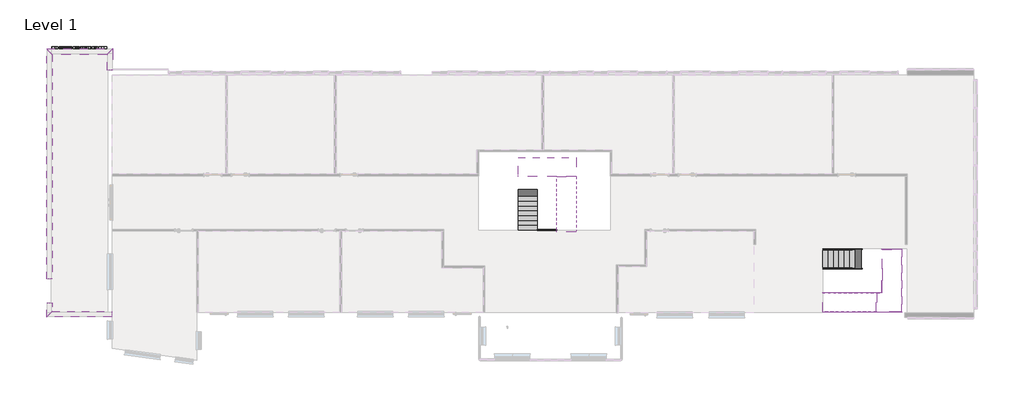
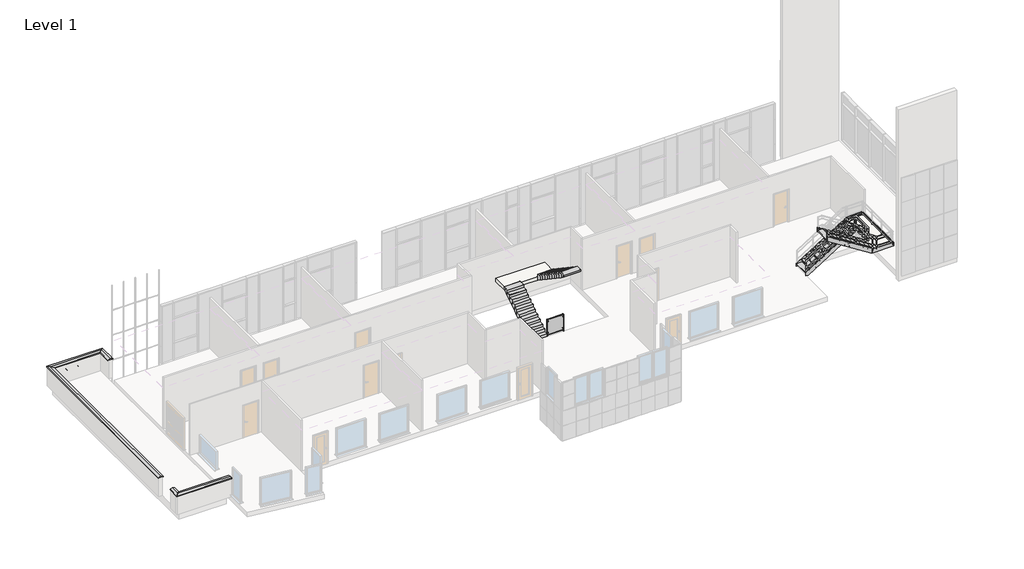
# One storey, part 10 of 10: 9 members, 6 proxies, 4 stair flights, 2 slabs, 1 railing.
"""IFC4 building model written with IfcOpenShell, lengths in millimetres."""

from ifc_helpers import new_model, si_unit, point, frame, origin, place, context, project, spatial, polyline, ellipse_curve, trimmed, outline, extrude, faceted_brep, transform, mapped, element, save
from ifc_brep_helpers import plane_surface, extruded_surface, advanced_brep
from components import non_monolithic_landing_89975e38, concrete_steps_w_40mm_tread_40mm_nosing_5f99529d, concrete_steps_w_40mm_tread_40mm_nosing_36d92289

model = new_model("IFC4")

# Units and contexts
model_context = context("Model", 3, world=origin())
ifc_project = project(units=[si_unit("LENGTHUNIT", "METRE", prefix="MILLI")], contexts=[model_context])

# Site, building, storey
site = spatial("IfcSite", under=ifc_project)
building = spatial("IfcBuilding", under=site)
storey = spatial("IfcBuildingStorey", under=building, Name="Level 1", Elevation=3750.0)

# Proxies
placement = place(None, origin())
element("IfcBuildingElementProxy", 1, Name="Wall Sweeps", at=placement, inside=storey, context=model_context, shape_type="Brep", body=[
    faceted_brep([(-1691.5227096, 10077.6942717, 4950.0), (-1691.5227096, 10077.6942717, 4995.0), (-1544.0227096, 10225.1942717, 5021.0082297), (-1396.5227096, 10372.6942717, 4995.0), (-1396.5227096, 10372.6942717, 4950.0), (-1691.5227096, 9259.9946591, 4950.0), (-1644.2223222, 9259.9946591, 4950.0), (-1429.2223222, 9259.9946591, 4950.0), (-1396.5227096, 9259.9946591, 4950.0), (-1396.5227096, 9259.9946591, 4995.0), (-1544.0227096, 9259.9946591, 5021.0082297), (-1691.5227096, 9259.9946591, 4995.0)], [[[0, 1, 2, 3, 4]], [[5, 6, 7, 8, 9, 10, 11]], [[1, 0, 5, 11]], [[2, 1, 11, 10]], [[3, 2, 10, 9]], [[4, 3, 9, 8]], [[0, 4, 8, 7, 6, 5]]]),
])
element("IfcBuildingElementProxy", 2, Name="Wall Sweeps", at=placement, inside=storey, context=model_context, shape_type="Brep", body=[
    faceted_brep([(-4521.9053759, -3212.7049534, 4950.0), (-4521.9053759, -3212.7049534, 4995.0), (-4669.4053759, -3360.2049534, 5021.0082297), (-4816.9053759, -3507.7049534, 4995.0), (-4816.9053759, -3507.7049534, 4950.0), (-4521.9053759, -2772.5053409, 4950.0), (-4569.2057633, -2772.5053409, 4950.0), (-4784.2057633, -2772.5053409, 4950.0), (-4816.9053759, -2772.5053409, 4950.0), (-4816.9053759, -2772.5053409, 4995.0), (-4669.4053759, -2772.5053409, 5021.0082297), (-4521.9053759, -2772.5053409, 4995.0)], [[[0, 1, 2, 3, 4]], [[5, 6, 7, 8, 9, 10, 11]], [[1, 0, 5, 11]], [[2, 1, 11, 10]], [[3, 2, 10, 9]], [[4, 3, 9, 8]], [[0, 4, 8, 7, 6, 5]]]),
])
element("IfcBuildingElementProxy", 3, Name="Wall Sweeps", at=placement, inside=storey, context=model_context, shape_type="Brep", body=[
    faceted_brep([(-4521.9053759, 10077.6942717, 4950.0), (-4521.9053759, 10077.6942717, 4995.0), (-4669.4053759, 10225.1942717, 5021.0082297), (-4816.9053759, 10372.6942717, 4995.0), (-4816.9053759, 10372.6942717, 4950.0), (-1691.5227096, 10077.6942717, 4950.0), (-1396.5227096, 10372.6942717, 4950.0), (-1396.5227096, 10372.6942717, 4995.0), (-1544.0227096, 10225.1942717, 5021.0082297), (-1691.5227096, 10077.6942717, 4995.0)], [[[0, 1, 2, 3, 4]], [[5, 6, 7, 8, 9]], [[1, 0, 5, 9]], [[2, 1, 9, 8]], [[3, 2, 8, 7]], [[4, 3, 7, 6]], [[0, 4, 6, 5]]]),
])
element("IfcBuildingElementProxy", 4, Name="Wall Sweeps", at=placement, inside=storey, context=model_context, shape_type="Brep", body=[
    faceted_brep([(-1456.7057633, -3212.7049534, 4950.0), (-1456.7057633, -3212.7049534, 4995.0), (-1456.7057633, -3360.2049534, 5021.0082297), (-1456.7057633, -3507.7049534, 4995.0), (-1456.7057633, -3507.7049534, 4950.0), (-1456.7057633, -3475.0053409, 4950.0), (-1456.7057633, -3260.0053409, 4950.0), (-4521.9053759, -3212.7049534, 4950.0), (-4816.9053759, -3507.7049534, 4950.0), (-4816.9053759, -3507.7049534, 4995.0), (-4669.4053759, -3360.2049534, 5021.0082297), (-4521.9053759, -3212.7049534, 4995.0)], [[[0, 1, 2, 3, 4, 5, 6]], [[7, 8, 9, 10, 11]], [[1, 0, 7, 11]], [[2, 1, 11, 10]], [[3, 2, 10, 9]], [[4, 3, 9, 8]], [[0, 6, 5, 4, 8, 7]]]),
])
element("IfcBuildingElementProxy", 5, Name="Wall Sweeps", at=placement, inside=storey, context=model_context, shape_type="Brep", body=[
    faceted_brep([(-4521.9053759, -1535.0053409, 4950.0), (-4521.9053759, -1535.0053409, 4995.0), (-4669.4053759, -1535.0053409, 5021.0082297), (-4816.9053759, -1535.0053409, 4995.0), (-4816.9053759, -1535.0053409, 4950.0), (-4784.2057633, -1535.0053409, 4950.0), (-4569.2057633, -1535.0053409, 4950.0), (-4521.9053759, 10077.6942717, 4950.0), (-4816.9053759, 10372.6942717, 4950.0), (-4816.9053759, 10372.6942717, 4995.0), (-4669.4053759, 10225.1942717, 5021.0082297), (-4521.9053759, 10077.6942717, 4995.0)], [[[0, 1, 2, 3, 4, 5, 6]], [[7, 8, 9, 10, 11]], [[1, 0, 7, 11]], [[2, 1, 11, 10]], [[3, 2, 10, 9]], [[4, 3, 9, 8]], [[0, 6, 5, 4, 8, 7]]]),
])
element("IfcBuildingElementProxy", 6, Name="450mm", ObjectType="450mm", at=placement, inside=storey, context=model_context, shape_type="SweptSolid", body=[
    extrude(outline(polyline([(4038.4997818, -2123.5870573), (4038.4997818, -2031.6953903), (4140.5257218, -1995.7130276), (4140.5257218, -1822.2917032), (4038.4997818, -1786.7648134), (4038.4997818, -1693.6205959), (4497.6165118, -1861.2346401), (4497.6165118, -1954.3788577), (4038.4997818, -2123.5870573)]), holes=[polyline([(4220.6889604, -1967.7014414), (4388.3030047, -1908.6038266), (4220.6889604, -1850.3032894), (4220.6889604, -1967.7014414)])]), frame((0.0, 10339.9946591, 0.0), z_axis=(0.0, 1.0, 0.0), x_axis=(0.0, 0.0, 1.0)), (0.0, 0.0, 1.0), 150.0),
    extrude(outline(polyline([(4038.4997818, -2378.6519073), (4087.69086, -2378.6519073), (4064.1913027, -2358.5114629), (4046.299756, -2332.9338103), (4034.9841, -2303.8262423), (4031.2122147, -2273.0960519), (4034.9129324, -2242.7216998), (4046.0150854, -2215.5925924), (4063.8212309, -2193.6160228), (4087.6339259, -2178.6992838), (4119.5881998, -2170.159166), (4161.8190821, -2167.3124601), (4373.7278704, -2167.3124601), (4373.7278704, -2254.7632658), (4218.7532004, -2254.7632658), (4161.3778426, -2255.9446488), (4131.5870652, -2259.4887977), (4117.2396674, -2266.1785566), (4106.1944485, -2276.7967696), (4099.1488513, -2291.0729998), (4096.800319, -2308.73681), (4099.9316955, -2329.674332), (4109.325825, -2348.3060222), (4123.3743187, -2363.0234918), (4140.4687877, -2372.2183519), (4172.5369298, -2377.0435184), (4231.5064429, -2378.6519073), (4373.7278704, -2378.6519073), (4373.7278704, -2466.102713), (4038.4997818, -2466.102713), (4038.4997818, -2378.6519073)])), frame((0.0, 10339.9946591, 0.0), z_axis=(0.0, 1.0, 0.0), x_axis=(0.0, 0.0, 1.0)), (0.0, 0.0, 1.0), 150.0),
    extrude(outline(polyline([(4373.7278704, -2713.8799958), (4308.1397661, -2713.8799958), (4308.1397661, -2648.2918915), (4164.3241833, -2648.2918915), (4113.4820156, -2650.2845857), (4101.5258508, -2659.3371105), (4096.800319, -2676.5312142), (4105.2265685, -2717.5237794), (4043.0545113, -2721.167563), (4034.1727888, -2687.4340979), (4031.2122147, -2649.5444421), (4033.2618429, -2626.2583877), (4039.4107277, -2605.3635663), (4048.8048572, -2588.2975644), (4060.5902197, -2576.4979684), (4075.8770305, -2568.7122277), (4095.7755048, -2563.6877917), (4159.4278491, -2560.8410858), (4308.1397661, -2560.8410858), (4308.1397661, -2517.115683), (4373.7278704, -2517.115683), (4373.7278704, -2560.8410858), (4439.3159747, -2560.8410858), (4490.3289447, -2648.2918915), (4373.7278704, -2648.2918915), (4373.7278704, -2713.8799958)])), frame((0.0, 10339.9946591, 0.0), z_axis=(0.0, 1.0, 0.0), x_axis=(0.0, 0.0, 1.0)), (0.0, 0.0, 1.0), 150.0),
    extrude(outline(polyline([(4210.896292, -2743.0302644), (4254.2658567, -2748.4247721), (4296.2405354, -2764.6082952), (4315.6586281, -2776.5182011), (4332.6356705, -2790.6698879), (4347.1716626, -2807.0633556), (4359.2666043, -2825.6986042), (4375.5782292, -2867.516714), (4381.0154375, -2913.9464875), (4377.9338784, -2949.9324087), (4368.6892009, -2982.5093995), (4353.2814051, -3011.67746), (4331.7104911, -3037.4365901), (4305.4282787, -3058.484422), (4275.8865881, -3073.5185876), (4243.0854192, -3082.539087), (4207.024772, -3085.5459201), (4170.6758958, -3082.5070615), (4137.5793812, -3073.3904858), (4107.7352281, -3058.196193), (4081.1434364, -3036.9241831), (4059.2985269, -3011.0476263), (4043.6950201, -2982.039693), (4034.332916, -2949.9003832), (4031.2122147, -2914.6296969), (4036.407453, -2870.0360488), (4051.9931679, -2827.5774301), (4063.5970528, -2808.1201951), (4077.6277546, -2791.1395943), (4094.0852732, -2776.6356277), (4112.9696086, -2764.6082952), (4134.1633341, -2755.1679067), (4157.5490232, -2748.4247721), (4210.896292, -2743.0302644)]), holes=[polyline([(4206.1138261, -2830.4810701), (4181.1873574, -2831.9933826), (4159.3566814, -2836.5303202), (4140.6217981, -2844.0918828), (4124.9827075, -2854.6780704), (4112.6529125, -2867.4846886), (4103.8459161, -2881.707543), (4098.5617182, -2897.3466337), (4096.800319, -2914.4019605), (4098.5617182, -2931.4501705), (4103.8459161, -2947.0679108), (4112.6529125, -2961.2551814), (4124.9827075, -2974.0119823), (4140.6644987, -2984.5483526), (4159.5274838, -2992.0743314), (4181.5716627, -2996.5899186), (4206.7970355, -2998.0951144), (4231.4246001, -2996.5899186), (4253.0417731, -2992.0743314), (4271.6485546, -2984.5483526), (4287.2449447, -2974.0119823), (4299.5747397, -2961.2551814), (4308.3817361, -2947.0679108), (4313.665934, -2931.4501705), (4315.4273332, -2914.4019605), (4313.665934, -2897.3466337), (4308.3817361, -2881.707543), (4299.5747397, -2867.4846886), (4287.2449447, -2854.6780704), (4271.6058541, -2844.0918828), (4252.8709708, -2836.5303202), (4231.0402948, -2831.9933826), (4206.1138261, -2830.4810701)])]), frame((0.0, 10339.9946591, 0.0), z_axis=(0.0, 1.0, 0.0), x_axis=(0.0, 0.0, 1.0)), (0.0, 0.0, 1.0), 150.0),
    extrude(outline(polyline([(4038.4997818, -3449.9242772), (4038.4997818, -3362.4734715), (4086.7799141, -3362.4734715), (4062.2555427, -3341.1374107), (4044.9333372, -3316.2999016), (4034.6424953, -3289.6120336), (4031.2122147, -3262.7248962), (4034.1158547, -3236.211389), (4042.8267748, -3211.6692257), (4057.344975, -3189.0984061), (4077.6704552, -3168.4989304), (4103.1982905, -3151.3368522), (4133.3235559, -3139.0782248), (4168.0462512, -3131.7230484), (4207.3663767, -3129.2713229), (4247.3483613, -3131.71949), (4282.2347423, -3139.0639913), (4312.0255197, -3151.3048267), (4336.7206935, -3168.4419963), (4356.099644, -3189.3225842), (4369.9417515, -3212.7936745), (4378.247016, -3238.8552671), (4381.0154375, -3267.5073622), (4378.1473813, -3294.0244278), (4369.5432127, -3318.6911345), (4355.2029316, -3341.5074824), (4335.1265382, -3362.4734715), (4497.6165118, -3362.4734715), (4497.6165118, -3449.9242772), (4038.4997818, -3449.9242772)]), holes=[polyline([(4212.4904473, -3216.7221286), (4164.8935244, -3220.3659122), (4132.5549453, -3231.2972629), (4116.9122962, -3242.8762392), (4105.7389755, -3256.5475444), (4099.0349831, -3272.3111784), (4096.800319, -3290.1671413), (4098.4763171, -3304.6853414), (4103.5043114, -3318.0648592), (4111.8843019, -3330.3056947), (4123.6162887, -3341.4078477), (4138.6789214, -3350.6240581), (4157.0508497, -3357.2070656), (4203.7225931, -3362.4734715), (4254.8351978, -3357.3636344), (4274.1465391, -3350.976338), (4289.2945729, -3342.034123), (4300.7276556, -3331.0920972), (4308.8941432, -3318.7053681), (4313.7940357, -3304.8739357), (4315.4273332, -3289.5978001), (4313.8118276, -3274.7379952), (4308.9653108, -3261.1307409), (4300.8877828, -3248.7760373), (4289.5792435, -3237.6738842), (4275.0681601, -3228.5074911), (4257.3829996, -3221.9600675), (4212.4904473, -3216.7221286)])]), frame((0.0, 10339.9946591, 0.0), z_axis=(0.0, 1.0, 0.0), x_axis=(0.0, 0.0, 1.0)), (0.0, 0.0, 1.0), 150.0),
    extrude(outline(polyline([(4140.5257218, -3726.8518286), (4125.9505875, -3814.3026343), (4104.1626121, -3804.8515707), (4085.1430582, -3793.0092741), (4068.8919258, -3778.7757445), (4055.409215, -3762.150982), (4044.8230273, -3743.2132709), (4037.2614647, -3722.0408956), (4032.7245272, -3698.6338562), (4031.2122147, -3672.9921527), (4034.7777138, -3633.3873567), (4045.4742113, -3599.2909366), (4063.3017071, -3570.7028924), (4088.2602012, -3547.6232242), (4112.59242, -3533.5747305), (4139.9279136, -3523.5400922), (4170.2666819, -3517.5193092), (4203.6087249, -3515.5123815), (4242.9217336, -3518.1740515), (4277.7369469, -3526.1590616), (4308.0543649, -3539.4674118), (4333.8739876, -3558.099102), (4354.4983719, -3580.8015817), (4369.230075, -3606.3223002), (4378.0690969, -3634.6612576), (4381.0154375, -3665.8184538), (4377.9908125, -3700.4415145), (4368.9169374, -3731.2072887), (4353.7938122, -3758.1157763), (4332.621437, -3781.1669775), (4305.2005422, -3799.5353474), (4271.3318586, -3812.3953414), (4231.0153861, -3819.7469594), (4184.2511247, -3821.5902015), (4184.2511247, -3602.9631872), (4147.4147501, -3608.5711979), (4119.8017028, -3623.573338), (4102.5506649, -3645.692243), (4096.800319, -3672.650548), (4099.3908213, -3691.0118012), (4107.1623285, -3706.2416778), (4120.6841816, -3718.2263097), (4140.5257218, -3726.8518286)]), holes=[polyline([(4235.2640947, -3734.1393958), (4269.837338, -3728.8160557), (4294.9879848, -3714.6679273), (4310.3174961, -3694.1147106), (4315.4273332, -3669.5761056), (4310.0470591, -3643.6710818), (4293.9062365, -3622.6623921), (4268.4282186, -3608.8843355), (4235.2640947, -3604.4434743), (4235.2640947, -3734.1393958)])]), frame((0.0, 10339.9946591, 0.0), z_axis=(0.0, 1.0, 0.0), x_axis=(0.0, 0.0, 1.0)), (0.0, 0.0, 1.0), 150.0),
    extrude(outline(polyline([(4133.2381547, -3850.7404701), (4147.813289, -3938.1912758), (4125.7797852, -3946.5178906), (4109.7812979, -3960.5663843), (4100.0455637, -3980.8206968), (4096.800319, -4007.7647683), (4099.9032284, -4037.0004381), (4109.2119567, -4057.9806607), (4119.3462298, -4066.5207784), (4132.441077, -4069.3674843), (4141.4936018, -4067.8587302), (4148.8381031, -4063.3324678), (4154.8446526, -4052.9989253), (4160.338795, -4034.7515404), (4182.7139035, -3950.2897759), (4193.1755477, -3922.2568394), (4203.1532519, -3903.6892001), (4218.0201736, -3886.9007519), (4235.5202982, -3874.9090033), (4255.6536258, -3867.7139541), (4278.4201563, -3865.3156043), (4299.2509269, -3867.3723494), (4318.3594403, -3873.5425844), (4335.7456967, -3883.8263095), (4351.409696, -3898.2235247), (4364.3622079, -3916.9477329), (4373.6140021, -3940.212437), (4379.1650787, -3968.017637), (4381.0154375, -4000.3633329), (4379.5209169, -4031.1575742), (4375.0373551, -4057.7244571), (4367.5647521, -4080.0639818), (4357.1031078, -4098.1761482), (4343.7093565, -4112.9292016), (4327.4404322, -4125.1913873), (4308.2963349, -4134.9627054), (4286.2770647, -4142.2431558), (4271.7019304, -4054.79235), (4290.4047882, -4048.3587947), (4304.1543778, -4037.939851), (4312.6090944, -4022.9092438), (4315.4273332, -4002.6406977), (4313.0361003, -3977.7320209), (4305.8624014, -3961.0787913), (4298.005493, -3954.8445054), (4288.0989565, -3952.76641), (4279.5303716, -3954.8445054), (4272.2712716, -3961.0787913), (4261.8238609, -3986.0017016), (4247.7896007, -4038.4522581), (4230.111557, -4094.6604664), (4219.884766, -4115.2599421), (4208.7327955, -4130.8563321), (4195.7874004, -4142.2146887), (4180.5219399, -4150.3278006), (4162.9364141, -4155.1956677), (4143.030823, -4156.81829), (4120.8941261, -4154.4661993), (4100.3729349, -4147.409927), (4081.4672492, -4135.6494732), (4064.1770692, -4119.1848378), (4049.7549453, -4098.1085389), (4039.4534283, -4072.5130944), (4033.2725181, -4042.3985042), (4031.2122147, -4007.7647683), (4032.927355, -3976.0346725), (4038.0727759, -3947.7989082), (4046.6484775, -3923.0574754), (4058.6544597, -3901.8103742), (4073.6067825, -3883.9935535), (4091.021506, -3869.5429626), (4110.89863, -3858.4586015), (4133.2381547, -3850.7404701)])), frame((0.0, 10339.9946591, 0.0), z_axis=(0.0, 1.0, 0.0), x_axis=(0.0, 0.0, 1.0)), (0.0, 0.0, 1.0), 150.0),
    extrude(outline(polyline([(4038.4997818, -4236.9815286), (4497.6165118, -4236.9815286), (4497.6165118, -4324.4323343), (4255.646509, -4324.4323343), (4373.7278704, -4430.1020579), (4373.7278704, -4532.1279979), (4250.5224384, -4419.7400484), (4038.4997818, -4539.415565), (4038.4997818, -4451.9647593), (4188.6919859, -4363.4891395), (4145.8775289, -4324.4323343), (4038.4997818, -4324.4323343), (4038.4997818, -4236.9815286)])), frame((0.0, 10339.9946591, 0.0), z_axis=(0.0, 1.0, 0.0), x_axis=(0.0, 0.0, 1.0)), (0.0, 0.0, 1.0), 150.0),
])

# Members
element("IfcMember", 7, ObjectType="Stringer-Paint-15mm_Width", at=placement, inside=storey, context=model_context, shape_type="SweptSolid", body=[
    extrude(outline(polyline([(5623.0952381, 38038.5830309), (5873.0952381, 38110.6950885), (7650.6689034, 35285.7942367), (7355.2922685, 35285.7942367), (5623.0952381, 38038.5830309)])), frame((0.0, -3262.3476462, 0.0), z_axis=(0.0, 1.0, 0.0), x_axis=(0.0, 0.0, 1.0)), (0.0, 0.0, 1.0), 15.0),
])
element("IfcMember", 8, ObjectType="Stringer-Paint-15mm_Width", at=placement, inside=storey, context=model_context, shape_type="SweptSolid", body=[
    extrude(outline(polyline([(5623.0952381, 38038.5830309), (5873.0952381, 38110.6950885), (7650.6689034, 35285.7942367), (7355.2922685, 35285.7942367), (5623.0952381, 38038.5830309)])), frame((0.0, -2247.3476462, 0.0), z_axis=(0.0, 1.0, 0.0), x_axis=(0.0, 0.0, 1.0)), (0.0, 0.0, 1.0), 15.0),
])
element("IfcMember", 9, ObjectType="Stringer-Paint-15mm_Width", at=placement, inside=storey, context=model_context, shape_type="SweptSolid", body=[
    extrude(outline(polyline([(3950.6689034, 35285.7942367), (3750.0, 35285.7942367), (3750.0, 35436.3027397), (5623.0952381, 38413.0054424), (5873.0952381, 38340.8933849), (3950.6689034, 35285.7942367)])), frame((0.0, 1.8025492, 0.0), z_axis=(0.0, 1.0, 0.0), x_axis=(0.0, 0.0, 1.0)), (0.0, 0.0, 1.0), 15.0),
])
element("IfcMember", 10, ObjectType="Stringer-Paint-15mm_Width", at=placement, inside=storey, context=model_context, shape_type="SweptSolid", body=[
    extrude(outline(polyline([(3950.6689034, 35285.7942367), (3750.0, 35285.7942367), (3750.0, 35436.3027397), (5583.9487311, 38350.7942367), (5873.0952381, 38350.7942367), (5873.0952381, 38340.8933849), (3950.6689034, 35285.7942367)])), frame((0.0, -1013.1974508, 0.0), z_axis=(0.0, 1.0, 0.0), x_axis=(0.0, 0.0, 1.0)), (0.0, 0.0, 1.0), 15.0),
])
element("IfcMember", 11, ObjectType="Stringer-Paint-15mm_Width", at=placement, inside=storey, context=model_context, shape_type="Brep", body=[
    faceted_brep([(38110.6950885, -3247.3476462, 5873.0952381), (38110.6950885, -3262.3476462, 5873.0952381), (39380.7942367, -3262.3476462, 5873.0952381), (39365.7942367, -3247.3476462, 5873.0952381), (38038.5830309, -3247.3476462, 5623.0952381), (39365.7942367, -3247.3476462, 5623.0952381), (38038.5830309, -3262.3476462, 5623.0952381), (39380.7942367, -3262.3476462, 5623.0952381)], [[[0, 1, 2, 3]], [[4, 0, 3, 5]], [[6, 4, 5, 7]], [[1, 6, 7, 2]], [[1, 0, 4, 6]], [[2, 7, 5, 3]]]),
])
element("IfcMember", 12, ObjectType="Stringer-Paint-15mm_Width", at=placement, inside=storey, context=model_context, shape_type="SweptSolid", body=[
    extrude(outline(polyline([(39380.7942367, -3262.3476462), (39365.7942367, -3247.3476462), (39365.7942367, 1.8025492), (39380.7942367, 16.8025492), (39380.7942367, -3262.3476462)])), frame((0.0, 0.0, 5623.0952381), z_axis=(0.0, 0.0, 1.0), x_axis=(1.0, 0.0, 0.0)), (0.0, 0.0, 1.0), 250.0),
])
element("IfcMember", 13, ObjectType="Stringer-Paint-15mm_Width", at=placement, inside=storey, context=model_context, shape_type="Brep", body=[
    faceted_brep([(39365.7942367, 1.8025492, 5873.0952381), (39380.7942367, 16.8025492, 5873.0952381), (38340.8933849, 16.8025492, 5873.0952381), (38340.8933849, 1.8025492, 5873.0952381), (39365.7942367, 1.8025492, 5623.0952381), (38413.0054424, 1.8025492, 5623.0952381), (39380.7942367, 16.8025492, 5623.0952381), (38413.0054424, 16.8025492, 5623.0952381)], [[[0, 1, 2, 3]], [[4, 0, 3, 5]], [[6, 4, 5, 7]], [[1, 6, 7, 2]], [[1, 0, 4, 6]], [[2, 7, 5, 3]]]),
])
element("IfcMember", 14, ObjectType="Stringer-Paint-15mm_Width", at=placement, inside=storey, context=model_context, shape_type="SweptSolid", body=[
    extrude(outline(polyline([(38350.7942367, -998.1974508), (38365.7942367, -998.1974508), (38365.7942367, -2247.3476462), (38350.7942367, -2232.3476462), (38350.7942367, -998.1974508)])), frame((0.0, 0.0, 5623.0952381), z_axis=(0.0, 0.0, 1.0), x_axis=(1.0, 0.0, 0.0)), (0.0, 0.0, 1.0), 250.0),
])
element("IfcMember", 15, ObjectType="Stringer-Paint-15mm_Width", at=placement, inside=storey, context=model_context, shape_type="Brep", body=[
    faceted_brep([(38365.7942367, -2247.3476462, 5873.0952381), (38350.7942367, -2232.3476462, 5873.0952381), (38110.6950885, -2232.3476462, 5873.0952381), (38110.6950885, -2247.3476462, 5873.0952381), (38365.7942367, -2247.3476462, 5623.0952381), (38038.5830309, -2247.3476462, 5623.0952381), (38350.7942367, -2232.3476462, 5623.0952381), (38038.5830309, -2232.3476462, 5623.0952381)], [[[0, 1, 2, 3]], [[4, 0, 3, 5]], [[6, 4, 5, 7]], [[1, 6, 7, 2]], [[1, 0, 4, 6]], [[2, 7, 5, 3]]]),
])

# Railing
element("IfcRailing", 16, ObjectType="Commercial - Glass w Fixings", at=placement, inside=storey, context=model_context, shape_type="SolidModel", body=[
    advanced_brep(
    [(20543.2942367, 999.3527269, 4867.5), (20543.2942367, 999.3527269, 4832.5), (21543.2942367, 999.3527269, 4867.5), (21543.2942367, 999.3527269, 4832.5)],
    [
        (0, 1, ellipse_curve(frame((20543.2942367, 999.3527269, 4850.0), z_axis=(-1.0, 0.0, 0.0), x_axis=(0.0, 0.0, -1.0)), 17.5, 25.0)),
        (1, 0, ellipse_curve(frame((20543.2942367, 999.3527269, 4850.0), z_axis=(-1.0, 0.0, 0.0), x_axis=(0.0, 0.0, -1.0)), 17.5, 25.0)),
        (2, 3, ellipse_curve(frame((21543.2942367, 999.3527269, 4850.0), z_axis=(1.0, 0.0, 0.0), x_axis=(0.0, 0.0, -1.0)), 17.5, 25.0)),
        (3, 2, ellipse_curve(frame((21543.2942367, 999.3527269, 4850.0), z_axis=(1.0, 0.0, 0.0), x_axis=(0.0, 0.0, -1.0)), 17.5, 25.0)),
        (0, 2),
        (3, 1),
    ],
    [
        plane_surface(frame((20543.2942367, 999.3527269, 4850.0), z_axis=(-1.0, 0.0, 0.0), x_axis=(0.0, 1.0, 0.0))),
        plane_surface(frame((21543.2942367, 999.3527269, 4850.0), z_axis=(1.0, 0.0, 0.0), x_axis=(0.0, 1.0, 0.0))),
        extruded_surface(trimmed(ellipse_curve(frame((21543.2942367, 999.3527269, 4850.0), z_axis=(-1.0, 0.0, 0.0), x_axis=(0.0, 0.0, -1.0)), 17.5, 25.0), [point((21543.2942367, 999.3527269, 4867.5))], [point((21543.2942367, 999.3527269, 4832.5))], True, "CARTESIAN"), (-1000.0, 0.0, 0.0), 1000.0),
        extruded_surface(trimmed(ellipse_curve(frame((21543.2942367, 999.3527269, 4850.0), z_axis=(-1.0, 0.0, 0.0), x_axis=(0.0, 0.0, -1.0)), 17.5, 25.0), [point((21543.2942367, 999.3527269, 4832.5))], [point((21543.2942367, 999.3527269, 4867.5))], True, "CARTESIAN"), (-1000.0, 0.0, 0.0), 1000.0),
    ],
    [
        (0, [[1, 2]]),
        (1, [[3, 4]]),
        (2, [[-1, 5, -4, 6]]),
        (3, [[-2, -6, -3, -5]]),
    ],
),
    extrude(outline(polyline([(20543.2942367, 981.8527269), (20543.2942367, 1016.8527269), (21543.2942367, 1016.8527269), (21543.2942367, 981.8527269), (20543.2942367, 981.8527269)])), frame((0.0, 0.0, 3844.0), z_axis=(0.0, 0.0, 1.0), x_axis=(1.0, 0.0, 0.0)), (0.0, 0.0, 1.0), 6.0),
    extrude(outline(polyline([(21483.2942367, 1005.3527269), (21543.2942367, 1005.3527269), (21543.2942367, 993.3527269), (21483.2942367, 993.3527269), (21483.2942367, 1005.3527269)])), frame((0.0, 0.0, 3950.0), z_axis=(0.0, 0.0, 1.0), x_axis=(1.0, 0.0, 0.0)), (0.0, 0.0, 1.0), 50.0),
    extrude(outline(polyline([(21483.2942367, 1005.3527269), (21543.2942367, 1005.3527269), (21543.2942367, 993.3527269), (21483.2942367, 993.3527269), (21483.2942367, 1005.3527269)])), frame((0.0, 0.0, 4700.0), z_axis=(0.0, 0.0, 1.0), x_axis=(1.0, 0.0, 0.0)), (0.0, 0.0, 1.0), 50.0),
    extrude(outline(polyline([(20543.2942367, 1005.3527269), (20593.2942367, 1005.3527269), (20593.2942367, 993.3527269), (20543.2942367, 993.3527269), (20543.2942367, 1005.3527269)])), frame((0.0, 0.0, 3950.0), z_axis=(0.0, 0.0, 1.0), x_axis=(1.0, 0.0, 0.0)), (0.0, 0.0, 1.0), 50.0),
    extrude(outline(polyline([(20543.2942367, 1005.3527269), (20593.2942367, 1005.3527269), (20593.2942367, 993.3527269), (20543.2942367, 993.3527269), (20543.2942367, 1005.3527269)])), frame((0.0, 0.0, 4700.0), z_axis=(0.0, 0.0, 1.0), x_axis=(1.0, 0.0, 0.0)), (0.0, 0.0, 1.0), 50.0),
    extrude(outline(polyline([(20553.2942367, 1005.3527269), (21533.2942367, 1005.3527269), (21533.2942367, 993.3527269), (20553.2942367, 993.3527269), (20553.2942367, 1005.3527269)])), frame((0.0, 0.0, 3875.0), z_axis=(0.0, 0.0, 1.0), x_axis=(1.0, 0.0, 0.0)), (0.0, 0.0, 1.0), 950.0),
    extrude(outline(polyline([(21539.2942367, 981.8527269), (21539.2942367, 1016.8527269), (21547.2942367, 1016.8527269), (21547.2942367, 981.8527269), (21539.2942367, 981.8527269)])), frame((0.0, 0.0, 3750.0), z_axis=(0.0, 0.0, 1.0), x_axis=(1.0, 0.0, 0.0)), (0.0, 0.0, 1.0), 1082.5),
    extrude(outline(polyline([(20539.2942367, 981.8527269), (20539.2942367, 1016.8527269), (20547.2942367, 1016.8527269), (20547.2942367, 981.8527269), (20539.2942367, 981.8527269)])), frame((0.0, 0.0, 3750.0), z_axis=(0.0, 0.0, 1.0), x_axis=(1.0, 0.0, 0.0)), (0.0, 0.0, 1.0), 1082.5),
])

# Slabs
element("IfcSlab", 17, ObjectType="200mm Thickness - Concrete", at=placement, inside=storey, context=model_context, shape_type="SolidModel", body=[
    faceted_brep([(21543.2942367, 3749.3527269, 5599.0), (22543.2942367, 3749.3527269, 5599.0), (22543.2942367, 4749.3527269, 5599.0), (19543.2942367, 4749.3527269, 5599.0), (19543.2942367, 3859.3527269, 5599.0), (20544.8817367, 3859.3527269, 5599.0), (20544.8817367, 3749.3527269, 5599.0), (21543.2942367, 3749.3527269, 5399.0), (20544.8817367, 3749.3527269, 5399.0), (22543.2942367, 3749.3527269, 5399.0), (22543.2942367, 4749.3527269, 5399.0), (19543.2942367, 4749.3527269, 5399.0), (19543.2942367, 3759.3527269, 5399.0), (19543.2942367, 3759.3527269, 5489.0), (19543.2942367, 3859.3527269, 5489.0), (20544.8817367, 3759.3527269, 5399.0), (20544.8817367, 3759.3527269, 5489.0), (20544.8817367, 3859.3527269, 5489.0)], [[[0, 1, 2, 3, 4, 5, 6]], [[7, 0, 6, 8]], [[1, 0, 7, 9]], [[2, 1, 9, 10]], [[3, 2, 10, 11]], [[3, 11, 12, 13, 14, 4]], [[9, 7, 8, 15, 12, 11, 10]], [[16, 17, 14, 13]], [[5, 17, 16, 15, 8, 6]], [[17, 5, 4, 14]], [[16, 13, 12, 15]]]),
    extrude(outline(polyline([(19543.2942367, 3859.3527269), (19543.2942367, 4749.3527269), (22543.2942367, 4749.3527269), (22543.2942367, 3749.3527269), (21543.2942367, 3749.3527269), (20543.2942367, 3749.3527269), (20543.2942367, 3859.3527269), (19543.2942367, 3859.3527269)])), frame((0.0, 0.0, 5599.0), z_axis=(0.0, 0.0, 1.0), x_axis=(1.0, 0.0, 0.0)), (0.0, 0.0, 1.0), 1.0),
])
non_monolithic_landing_shape = non_monolithic_landing_89975e38(model_context)
element("IfcSlab", 18, ObjectType="Non-Monolithic_Landing", at=placement, inside=storey, context=model_context, shape_type="MappedRepresentation", body=[
    mapped(non_monolithic_landing_shape, transform((0.0, 0.0, 0.0), x_axis=(1.0, 0.0, 0.0), y_axis=(0.0, 1.0, 0.0), z_axis=(0.0, 0.0, 1.0))),
])

# Stair flights
element("IfcStairFlight", 19, ObjectType="1mm Tread 170mm Structural Depth", at=placement, inside=storey, context=model_context, shape_type="SolidModel", body=[
    faceted_brep([(19543.2942367, 1249.3527269, 3917.1818182), (19543.2942367, 999.3527269, 3917.1818182), (20543.2942367, 999.3527269, 3917.1818182), (20543.2942367, 1249.3527269, 3917.1818182), (19543.2942367, 1249.3527269, 3750.0), (19543.2942367, 999.3527269, 3750.0), (20543.2942367, 999.3527269, 3750.0), (20543.2942367, 1249.3527269, 3750.0), (19543.2942367, 1499.3527269, 4085.3636364), (19543.2942367, 1249.3527269, 4085.3636364), (20543.2942367, 1249.3527269, 4085.3636364), (20543.2942367, 1499.3527269, 4085.3636364), (19543.2942367, 1499.3527269, 3880.4757614), (19543.2942367, 1305.4022708, 3750.0), (20543.2942367, 1305.4022708, 3750.0), (20543.2942367, 1499.3527269, 3880.4757614), (19543.2942367, 1749.3527269, 4253.5454545), (19543.2942367, 1499.3527269, 4253.5454545), (20543.2942367, 1499.3527269, 4253.5454545), (20543.2942367, 1749.3527269, 4253.5454545), (19543.2942367, 1749.3527269, 4048.6575795), (20543.2942367, 1749.3527269, 4048.6575795), (19543.2942367, 1999.3527269, 4421.7272727), (19543.2942367, 1749.3527269, 4421.7272727), (20543.2942367, 1749.3527269, 4421.7272727), (20543.2942367, 1999.3527269, 4421.7272727), (19543.2942367, 1999.3527269, 4216.8393977), (20543.2942367, 1999.3527269, 4216.8393977), (19543.2942367, 2249.3527269, 4589.9090909), (19543.2942367, 1999.3527269, 4589.9090909), (20543.2942367, 1999.3527269, 4589.9090909), (20543.2942367, 2249.3527269, 4589.9090909), (19543.2942367, 2249.3527269, 4385.0212159), (20543.2942367, 2249.3527269, 4385.0212159), (19543.2942367, 2499.3527269, 4758.0909091), (19543.2942367, 2249.3527269, 4758.0909091), (20543.2942367, 2249.3527269, 4758.0909091), (20543.2942367, 2499.3527269, 4758.0909091), (19543.2942367, 2499.3527269, 4553.2030341), (20543.2942367, 2499.3527269, 4553.2030341), (19543.2942367, 2749.3527269, 4926.2727273), (19543.2942367, 2499.3527269, 4926.2727273), (20543.2942367, 2499.3527269, 4926.2727273), (20543.2942367, 2749.3527269, 4926.2727273), (19543.2942367, 2749.3527269, 4721.3848523), (20543.2942367, 2749.3527269, 4721.3848523), (19543.2942367, 2999.3527269, 5094.4545455), (19543.2942367, 2749.3527269, 5094.4545455), (20543.2942367, 2749.3527269, 5094.4545455), (20543.2942367, 2999.3527269, 5094.4545455), (19543.2942367, 2999.3527269, 4889.5666705), (20543.2942367, 2999.3527269, 4889.5666705), (19543.2942367, 3249.3527269, 5262.6363636), (19543.2942367, 2999.3527269, 5262.6363636), (20543.2942367, 2999.3527269, 5262.6363636), (20543.2942367, 3249.3527269, 5262.6363636), (19543.2942367, 3249.3527269, 5057.7484886), (20543.2942367, 3249.3527269, 5057.7484886), (19543.2942367, 3499.3527269, 5430.8181818), (19543.2942367, 3249.3527269, 5430.8181818), (20543.2942367, 3249.3527269, 5430.8181818), (20543.2942367, 3499.3527269, 5430.8181818), (19543.2942367, 3499.3527269, 5225.9303068), (20543.2942367, 3499.3527269, 5225.9303068), (19543.2942367, 3499.3527269, 5599.0), (20543.2942367, 3499.3527269, 5599.0), (20543.2942367, 3849.3527269, 5599.0), (19543.2942367, 3849.3527269, 5599.0), (19543.2942367, 3849.3527269, 5499.0), (19543.2942367, 3749.3527269, 5499.0), (19543.2942367, 3749.3527269, 5394.112125), (20543.2942367, 3749.3527269, 5394.112125), (20543.2942367, 3749.3527269, 5499.0), (20543.2942367, 3849.3527269, 5499.0)], [[[0, 1, 2, 3]], [[1, 0, 4, 5]], [[2, 1, 5, 6]], [[3, 2, 6, 7]], [[8, 9, 10, 11]], [[4, 0, 9, 8, 12, 13]], [[0, 3, 10, 9]], [[3, 7, 14, 15, 11, 10]], [[16, 17, 18, 19]], [[17, 16, 20, 12, 8]], [[8, 11, 18, 17]], [[19, 18, 11, 15, 21]], [[22, 23, 24, 25]], [[23, 22, 26, 20, 16]], [[16, 19, 24, 23]], [[25, 24, 19, 21, 27]], [[28, 29, 30, 31]], [[29, 28, 32, 26, 22]], [[22, 25, 30, 29]], [[31, 30, 25, 27, 33]], [[34, 35, 36, 37]], [[35, 34, 38, 32, 28]], [[28, 31, 36, 35]], [[37, 36, 31, 33, 39]], [[40, 41, 42, 43]], [[41, 40, 44, 38, 34]], [[34, 37, 42, 41]], [[43, 42, 37, 39, 45]], [[46, 47, 48, 49]], [[47, 46, 50, 44, 40]], [[40, 43, 48, 47]], [[49, 48, 43, 45, 51]], [[52, 53, 54, 55]], [[53, 52, 56, 50, 46]], [[46, 49, 54, 53]], [[55, 54, 49, 51, 57]], [[58, 59, 60, 61]], [[59, 58, 62, 56, 52]], [[52, 55, 60, 59]], [[61, 60, 55, 57, 63]], [[64, 65, 66, 67]], [[64, 67, 68, 69, 70, 62, 58]], [[58, 61, 65, 64]], [[66, 65, 61, 63, 71, 72, 73]], [[72, 71, 70, 69]], [[5, 4, 13, 14, 7, 6]], [[14, 13, 12, 20, 26, 32, 38, 44, 50, 56, 62, 70, 71, 63, 57, 51, 45, 39, 33, 27, 21, 15]], [[73, 72, 69, 68]], [[73, 68, 67, 66]]]),
    extrude(outline(polyline([(19543.2942367, 1249.3527269), (20543.2942367, 1249.3527269), (20543.2942367, 999.3527269), (19543.2942367, 999.3527269), (19543.2942367, 1249.3527269)])), frame((0.0, 0.0, 3917.1818182), z_axis=(0.0, 0.0, 1.0), x_axis=(1.0, 0.0, 0.0)), (0.0, 0.0, 1.0), 1.0),
    extrude(outline(polyline([(19543.2942367, 1499.3527269), (20543.2942367, 1499.3527269), (20543.2942367, 1249.3527269), (19543.2942367, 1249.3527269), (19543.2942367, 1499.3527269)])), frame((0.0, 0.0, 4085.3636364), z_axis=(0.0, 0.0, 1.0), x_axis=(1.0, 0.0, 0.0)), (0.0, 0.0, 1.0), 1.0),
    extrude(outline(polyline([(19543.2942367, 1749.3527269), (20543.2942367, 1749.3527269), (20543.2942367, 1499.3527269), (19543.2942367, 1499.3527269), (19543.2942367, 1749.3527269)])), frame((0.0, 0.0, 4253.5454545), z_axis=(0.0, 0.0, 1.0), x_axis=(1.0, 0.0, 0.0)), (0.0, 0.0, 1.0), 1.0),
    extrude(outline(polyline([(19543.2942367, 1999.3527269), (20543.2942367, 1999.3527269), (20543.2942367, 1749.3527269), (19543.2942367, 1749.3527269), (19543.2942367, 1999.3527269)])), frame((0.0, 0.0, 4421.7272727), z_axis=(0.0, 0.0, 1.0), x_axis=(1.0, 0.0, 0.0)), (0.0, 0.0, 1.0), 1.0),
    extrude(outline(polyline([(19543.2942367, 2249.3527269), (20543.2942367, 2249.3527269), (20543.2942367, 1999.3527269), (19543.2942367, 1999.3527269), (19543.2942367, 2249.3527269)])), frame((0.0, 0.0, 4589.9090909), z_axis=(0.0, 0.0, 1.0), x_axis=(1.0, 0.0, 0.0)), (0.0, 0.0, 1.0), 1.0),
    extrude(outline(polyline([(19543.2942367, 2499.3527269), (20543.2942367, 2499.3527269), (20543.2942367, 2249.3527269), (19543.2942367, 2249.3527269), (19543.2942367, 2499.3527269)])), frame((0.0, 0.0, 4758.0909091), z_axis=(0.0, 0.0, 1.0), x_axis=(1.0, 0.0, 0.0)), (0.0, 0.0, 1.0), 1.0),
    extrude(outline(polyline([(19543.2942367, 2749.3527269), (20543.2942367, 2749.3527269), (20543.2942367, 2499.3527269), (19543.2942367, 2499.3527269), (19543.2942367, 2749.3527269)])), frame((0.0, 0.0, 4926.2727273), z_axis=(0.0, 0.0, 1.0), x_axis=(1.0, 0.0, 0.0)), (0.0, 0.0, 1.0), 1.0),
    extrude(outline(polyline([(19543.2942367, 2999.3527269), (20543.2942367, 2999.3527269), (20543.2942367, 2749.3527269), (19543.2942367, 2749.3527269), (19543.2942367, 2999.3527269)])), frame((0.0, 0.0, 5094.4545455), z_axis=(0.0, 0.0, 1.0), x_axis=(1.0, 0.0, 0.0)), (0.0, 0.0, 1.0), 1.0),
    extrude(outline(polyline([(19543.2942367, 3249.3527269), (20543.2942367, 3249.3527269), (20543.2942367, 2999.3527269), (19543.2942367, 2999.3527269), (19543.2942367, 3249.3527269)])), frame((0.0, 0.0, 5262.6363636), z_axis=(0.0, 0.0, 1.0), x_axis=(1.0, 0.0, 0.0)), (0.0, 0.0, 1.0), 1.0),
    extrude(outline(polyline([(19543.2942367, 3499.3527269), (20543.2942367, 3499.3527269), (20543.2942367, 3249.3527269), (19543.2942367, 3249.3527269), (19543.2942367, 3499.3527269)])), frame((0.0, 0.0, 5430.8181818), z_axis=(0.0, 0.0, 1.0), x_axis=(1.0, 0.0, 0.0)), (0.0, 0.0, 1.0), 1.0),
    extrude(outline(polyline([(19543.2942367, 3849.3527269), (20543.2942367, 3849.3527269), (20543.2942367, 3499.3527269), (19543.2942367, 3499.3527269), (19543.2942367, 3749.3527269), (19543.2942367, 3849.3527269)])), frame((0.0, 0.0, 5599.0), z_axis=(0.0, 0.0, 1.0), x_axis=(1.0, 0.0, 0.0)), (0.0, 0.0, 1.0), 1.0),
])
element("IfcStairFlight", 20, ObjectType="1mm Tread 170mm Structural Depth", at=placement, inside=storey, context=model_context, shape_type="SolidModel", body=[
    faceted_brep([(22543.2942367, 3749.3527269, 5767.1818182), (21543.2942367, 3749.3527269, 5767.1818182), (21543.2942367, 3742.0869668, 5767.1818182), (21543.2942367, 3499.3527269, 5767.1818182), (22543.2942367, 3499.3527269, 5767.1818182), (22543.2942367, 3742.0869668, 5767.1818182), (22543.2942367, 3499.3527269, 5562.2939432), (22543.2942367, 3742.0869668, 5399.0), (22543.2942367, 3749.3527269, 5399.0), (21543.2942367, 3749.3527269, 5399.0), (21543.2942367, 3742.0869668, 5399.0), (21543.2942367, 3499.3527269, 5562.2939432), (22543.2942367, 3249.3527269, 5935.3636364), (22543.2942367, 3499.3527269, 5935.3636364), (21543.2942367, 3499.3527269, 5935.3636364), (21543.2942367, 3249.3527269, 5935.3636364), (22543.2942367, 3249.3527269, 5730.4757614), (21543.2942367, 3249.3527269, 5730.4757614), (22543.2942367, 2999.3527269, 6103.5454545), (22543.2942367, 3249.3527269, 6103.5454545), (21543.2942367, 3249.3527269, 6103.5454545), (21543.2942367, 2999.3527269, 6103.5454545), (22543.2942367, 2999.3527269, 5898.6575795), (21543.2942367, 2999.3527269, 5898.6575795), (22543.2942367, 2749.3527269, 6271.7272727), (22543.2942367, 2999.3527269, 6271.7272727), (21543.2942367, 2999.3527269, 6271.7272727), (21543.2942367, 2749.3527269, 6271.7272727), (22543.2942367, 2749.3527269, 6066.8393977), (21543.2942367, 2749.3527269, 6066.8393977), (22543.2942367, 2499.3527269, 6439.9090909), (22543.2942367, 2749.3527269, 6439.9090909), (21543.2942367, 2749.3527269, 6439.9090909), (21543.2942367, 2499.3527269, 6439.9090909), (22543.2942367, 2499.3527269, 6235.0212159), (21543.2942367, 2499.3527269, 6235.0212159), (22543.2942367, 2249.3527269, 6608.0909091), (22543.2942367, 2499.3527269, 6608.0909091), (21543.2942367, 2499.3527269, 6608.0909091), (21543.2942367, 2249.3527269, 6608.0909091), (22543.2942367, 2249.3527269, 6403.2030341), (21543.2942367, 2249.3527269, 6403.2030341), (22543.2942367, 1999.3527269, 6776.2727273), (22543.2942367, 2249.3527269, 6776.2727273), (21543.2942367, 2249.3527269, 6776.2727273), (21543.2942367, 1999.3527269, 6776.2727273), (22543.2942367, 1999.3527269, 6571.3848523), (21543.2942367, 1999.3527269, 6571.3848523), (22543.2942367, 1749.3527269, 6944.4545455), (22543.2942367, 1999.3527269, 6944.4545455), (21543.2942367, 1999.3527269, 6944.4545455), (21543.2942367, 1749.3527269, 6944.4545455), (22543.2942367, 1749.3527269, 6739.5666705), (21543.2942367, 1749.3527269, 6739.5666705), (22543.2942367, 1499.3527269, 7112.6363636), (22543.2942367, 1749.3527269, 7112.6363636), (21543.2942367, 1749.3527269, 7112.6363636), (21543.2942367, 1499.3527269, 7112.6363636), (22543.2942367, 1499.3527269, 6907.7484886), (21543.2942367, 1499.3527269, 6907.7484886), (22543.2942367, 1249.3527269, 7280.8181818), (22543.2942367, 1499.3527269, 7280.8181818), (21543.2942367, 1499.3527269, 7280.8181818), (21543.2942367, 1249.3527269, 7280.8181818), (22543.2942367, 1249.3527269, 7075.9303068), (21543.2942367, 1249.3527269, 7075.9303068), (22543.2942367, 1249.3527269, 7449.0), (21543.2942367, 1249.3527269, 7449.0), (21543.2942367, 899.3527269, 7449.0), (22543.2942367, 899.3527269, 7449.0), (22543.2942367, 899.3527269, 7349.0), (22543.2942367, 999.3527269, 7349.0), (22543.2942367, 999.3527269, 7244.112125), (21543.2942367, 999.3527269, 7244.112125), (21543.2942367, 999.3527269, 7349.0), (21543.2942367, 899.3527269, 7349.0)], [[[0, 1, 2, 3, 4, 5]], [[4, 6, 7, 8, 0, 5]], [[1, 0, 8, 9]], [[1, 9, 10, 11, 3, 2]], [[12, 13, 14, 15]], [[13, 12, 16, 6, 4]], [[14, 13, 4, 3]], [[15, 14, 3, 11, 17]], [[18, 19, 20, 21]], [[19, 18, 22, 16, 12]], [[20, 19, 12, 15]], [[21, 20, 15, 17, 23]], [[24, 25, 26, 27]], [[25, 24, 28, 22, 18]], [[26, 25, 18, 21]], [[27, 26, 21, 23, 29]], [[30, 31, 32, 33]], [[31, 30, 34, 28, 24]], [[32, 31, 24, 27]], [[33, 32, 27, 29, 35]], [[36, 37, 38, 39]], [[37, 36, 40, 34, 30]], [[38, 37, 30, 33]], [[39, 38, 33, 35, 41]], [[42, 43, 44, 45]], [[43, 42, 46, 40, 36]], [[44, 43, 36, 39]], [[45, 44, 39, 41, 47]], [[48, 49, 50, 51]], [[49, 48, 52, 46, 42]], [[50, 49, 42, 45]], [[51, 50, 45, 47, 53]], [[54, 55, 56, 57]], [[55, 54, 58, 52, 48]], [[56, 55, 48, 51]], [[57, 56, 51, 53, 59]], [[60, 61, 62, 63]], [[61, 60, 64, 58, 54]], [[62, 61, 54, 57]], [[63, 62, 57, 59, 65]], [[66, 67, 68, 69]], [[66, 69, 70, 71, 72, 64, 60]], [[67, 66, 60, 63]], [[68, 67, 63, 65, 73, 74, 75]], [[73, 72, 71, 74]], [[10, 7, 6, 16, 22, 28, 34, 40, 46, 52, 58, 64, 72, 73, 65, 59, 53, 47, 41, 35, 29, 23, 17, 11]], [[7, 10, 9, 8]], [[75, 74, 71, 70]], [[75, 70, 69, 68]]]),
    extrude(outline(polyline([(22543.2942367, 3499.3527269), (21543.2942367, 3499.3527269), (21543.2942367, 3749.3527269), (22543.2942367, 3749.3527269), (22543.2942367, 3499.3527269)])), frame((0.0, 0.0, 5767.1818182), z_axis=(0.0, 0.0, 1.0), x_axis=(1.0, 0.0, 0.0)), (0.0, 0.0, 1.0), 1.0),
    extrude(outline(polyline([(22543.2942367, 3249.3527269), (21543.2942367, 3249.3527269), (21543.2942367, 3499.3527269), (22543.2942367, 3499.3527269), (22543.2942367, 3249.3527269)])), frame((0.0, 0.0, 5935.3636364), z_axis=(0.0, 0.0, 1.0), x_axis=(1.0, 0.0, 0.0)), (0.0, 0.0, 1.0), 1.0),
    extrude(outline(polyline([(22543.2942367, 2999.3527269), (21543.2942367, 2999.3527269), (21543.2942367, 3249.3527269), (22543.2942367, 3249.3527269), (22543.2942367, 2999.3527269)])), frame((0.0, 0.0, 6103.5454545), z_axis=(0.0, 0.0, 1.0), x_axis=(1.0, 0.0, 0.0)), (0.0, 0.0, 1.0), 1.0),
    extrude(outline(polyline([(22543.2942367, 2749.3527269), (21543.2942367, 2749.3527269), (21543.2942367, 2999.3527269), (22543.2942367, 2999.3527269), (22543.2942367, 2749.3527269)])), frame((0.0, 0.0, 6271.7272727), z_axis=(0.0, 0.0, 1.0), x_axis=(1.0, 0.0, 0.0)), (0.0, 0.0, 1.0), 1.0),
    extrude(outline(polyline([(22543.2942367, 2499.3527269), (21543.2942367, 2499.3527269), (21543.2942367, 2749.3527269), (22543.2942367, 2749.3527269), (22543.2942367, 2499.3527269)])), frame((0.0, 0.0, 6439.9090909), z_axis=(0.0, 0.0, 1.0), x_axis=(1.0, 0.0, 0.0)), (0.0, 0.0, 1.0), 1.0),
    extrude(outline(polyline([(22543.2942367, 2249.3527269), (21543.2942367, 2249.3527269), (21543.2942367, 2499.3527269), (22543.2942367, 2499.3527269), (22543.2942367, 2249.3527269)])), frame((0.0, 0.0, 6608.0909091), z_axis=(0.0, 0.0, 1.0), x_axis=(1.0, 0.0, 0.0)), (0.0, 0.0, 1.0), 1.0),
    extrude(outline(polyline([(22543.2942367, 1999.3527269), (21543.2942367, 1999.3527269), (21543.2942367, 2249.3527269), (22543.2942367, 2249.3527269), (22543.2942367, 1999.3527269)])), frame((0.0, 0.0, 6776.2727273), z_axis=(0.0, 0.0, 1.0), x_axis=(1.0, 0.0, 0.0)), (0.0, 0.0, 1.0), 1.0),
    extrude(outline(polyline([(22543.2942367, 1749.3527269), (21543.2942367, 1749.3527269), (21543.2942367, 1999.3527269), (22543.2942367, 1999.3527269), (22543.2942367, 1749.3527269)])), frame((0.0, 0.0, 6944.4545455), z_axis=(0.0, 0.0, 1.0), x_axis=(1.0, 0.0, 0.0)), (0.0, 0.0, 1.0), 1.0),
    extrude(outline(polyline([(22543.2942367, 1499.3527269), (21543.2942367, 1499.3527269), (21543.2942367, 1749.3527269), (22543.2942367, 1749.3527269), (22543.2942367, 1499.3527269)])), frame((0.0, 0.0, 7112.6363636), z_axis=(0.0, 0.0, 1.0), x_axis=(1.0, 0.0, 0.0)), (0.0, 0.0, 1.0), 1.0),
    extrude(outline(polyline([(22543.2942367, 1249.3527269), (21543.2942367, 1249.3527269), (21543.2942367, 1499.3527269), (22543.2942367, 1499.3527269), (22543.2942367, 1249.3527269)])), frame((0.0, 0.0, 7280.8181818), z_axis=(0.0, 0.0, 1.0), x_axis=(1.0, 0.0, 0.0)), (0.0, 0.0, 1.0), 1.0),
    extrude(outline(polyline([(22543.2942367, 899.3527269), (21543.2942367, 899.3527269), (21543.2942367, 1249.3527269), (22543.2942367, 1249.3527269), (22543.2942367, 899.3527269)])), frame((0.0, 0.0, 7449.0), z_axis=(0.0, 0.0, 1.0), x_axis=(1.0, 0.0, 0.0)), (0.0, 0.0, 1.0), 1.0),
])
concrete_steps_w_40mm_tread_40mm_nosing_shape = concrete_steps_w_40mm_tread_40mm_nosing_5f99529d(model_context)
element("IfcStairFlight", 21, ObjectType="Concrete_Steps_w- 40mm_Tread-40mm_Nosing", at=placement, inside=storey, context=model_context, shape_type="MappedRepresentation", body=[
    mapped(concrete_steps_w_40mm_tread_40mm_nosing_shape, transform((0.0, 0.0, 0.0), x_axis=(1.0, 0.0, 0.0), y_axis=(0.0, 1.0, 0.0), z_axis=(0.0, 0.0, 1.0))),
])
concrete_steps_w_40mm_tread_40mm_nosing_2_shape = concrete_steps_w_40mm_tread_40mm_nosing_36d92289(model_context)
element("IfcStairFlight", 22, ObjectType="Concrete_Steps_w- 40mm_Tread-40mm_Nosing", at=placement, inside=storey, context=model_context, shape_type="MappedRepresentation", body=[
    mapped(concrete_steps_w_40mm_tread_40mm_nosing_2_shape, transform((0.0, 0.0, 0.0), x_axis=(1.0, 0.0, 0.0), y_axis=(0.0, 1.0, 0.0), z_axis=(0.0, 0.0, 1.0))),
])

save(model, "model.ifc")
